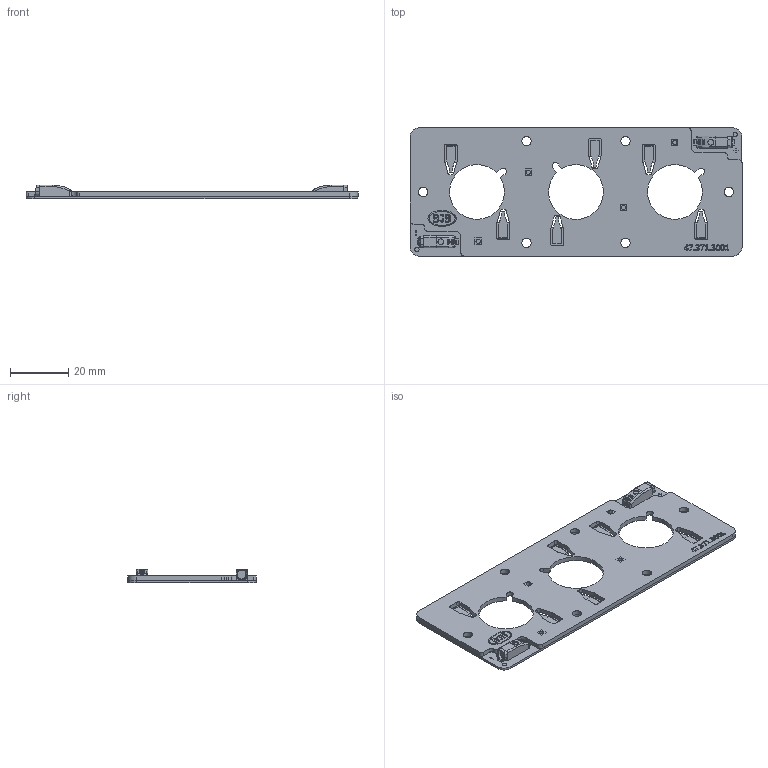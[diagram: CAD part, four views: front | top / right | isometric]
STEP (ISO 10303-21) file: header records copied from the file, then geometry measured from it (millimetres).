
FILE_DESCRIPTION(('CAx-IF Rec.Pracs.---Model Styling and Organization---1.2---2011-12-15','CAx-IF Rec.Pracs.---Geometric and Assembly Validation Properties---4.1---2014-06-16','CAx-IF Rec.Pracs.---PMI Polyline Presentation---2.0---2013-05-24'),'2;1');
FILE_NAME('020YV0BY03.stp','2018-01-30T08:28:05+01:00',(''),(''),'STEP Interface 4.1 Sp1 by CT CoreTechnologie','3D_Evolution4.1 Sp1 by CT CoreTechnologie','');
FILE_SCHEMA(('AUTOMOTIVE_DESIGN { 1 0 10303 214 1 1 1 1 }'));
Length unit declared in the file: millimetre
Products named in the file (4): 020YV0BY03; 020-V03-05; 01X-L02-0P; 020-V04-04
Assembly tree (4 placements, depth 2):
  020YV0BY03
    020-V03-05
    01X-L02-0P  x2
    020-V04-04
Bounding box: 114.01 x 44.01 x 4.7 mm (x, y, z)
Volume: 8732.8 mm3; surface area: 16192.4 mm2
Topology: 4 solids, 4 shells, 1137 faces, 3119 edges, 2084 vertices
Faces by surface type: plane 628, cylinder 366, bspline 143
Entity records: 84011 total; most frequent: CARTESIAN_POINT 24404, ORIENTED_EDGE 5222, DIRECTION 4784, PROPERTY_DEFINITION 4699, EDGE_CURVE 2611, INTEGER_REPRESENTATION_ITEM 2352, REPRESENTATION 2352, GENERAL_PROPERTY 2352
